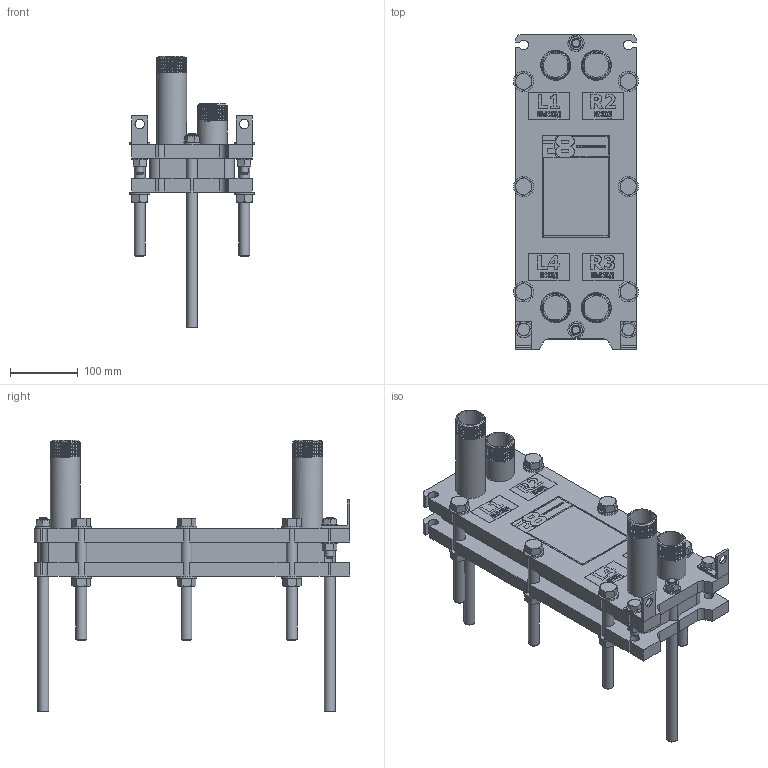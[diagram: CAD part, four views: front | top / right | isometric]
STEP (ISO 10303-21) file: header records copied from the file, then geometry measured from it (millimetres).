
FILE_DESCRIPTION (( 'STEP AP214' ), '1' );
FILE_NAME ('ÏÒ S32 ðåä 4 ñèãìà 5...50.STEP', '2021-04-18T08:49:53', ( '' ), ( '' ), 'SwSTEP 2.0', 'SolidWorks 2018', '' );
FILE_SCHEMA (( 'AUTOMOTIVE_DESIGN' ));
Length unit declared in the file: millimetre
Products named in the file (3): ÏÒ S32 ðåä 4 ñèãìà2 5...50; ÏÒ S32 ðåä 4 ñèãìà 5...50; ÏÒ S32 ðåä 4 ñèãìà1
Assembly tree (2 placements, depth 2):
  ÏÒ S32 ðåä 4 ñèãìà 5...50
    ÏÒ S32 ðåä 4 ñèãìà2 5...50
    ÏÒ S32 ðåä 4 ñèãìà1
Bounding box: 183.89 x 465 x 400 mm (x, y, z)
Volume: 5065488.5 mm3; surface area: 762492.6 mm2
Topology: 13 solids, 13 shells, 1513 faces, 3782 edges, 2444 vertices
Faces by surface type: plane 806, bspline 283, cone 244, cylinder 178, torus 2
Full cylindrical faces by diameter (mm): 12 x8, 13 x8, 14 x4, 16 x14, 17 x12, 24 x6, 30 x12, 36 x4, 44 x44
Entity records: 93792 total; most frequent: CARTESIAN_POINT 45845, ORIENTED_EDGE 7024, DIRECTION 5424, EDGE_CURVE 3512, VERTEX_POINT 2332, VECTOR 2010, LINE 2010, EDGE_LOOP 1756
